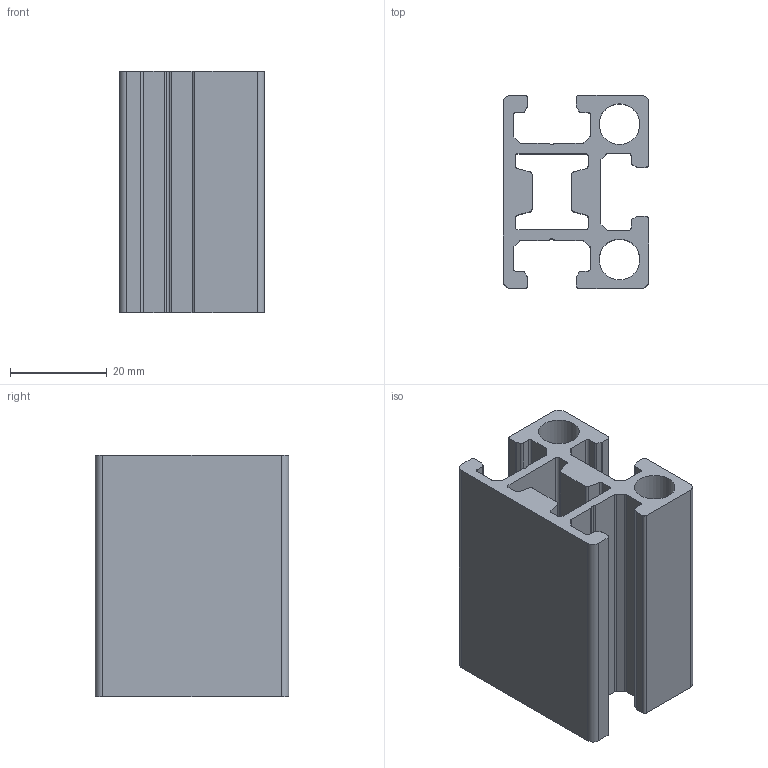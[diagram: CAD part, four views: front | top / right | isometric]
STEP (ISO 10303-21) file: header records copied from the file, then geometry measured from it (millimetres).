
FILE_DESCRIPTION(('STEP AP214'),'1');
FILE_NAME('F43KB-.stp','2017-07-21T04:11:59',(' '),(' '),'Spatial InterOp 3D',' ',' ');
FILE_SCHEMA(('automotive_design'));
Length unit declared in the file: millimetre
Products named in the file (1): F43KB-
Bounding box: 30 x 40 x 50 mm (x, y, z)
Volume: 24890.3 mm3; surface area: 18212.4 mm2
Topology: 1 solids, 1 shells, 118 faces, 348 edges, 232 vertices
Faces by surface type: cylinder 60, plane 58
Full cylindrical faces by diameter (mm): 8.4 x2
Entity records: 4934 total; most frequent: DIRECTION 704, CARTESIAN_POINT 697, ORIENTED_EDGE 692, EDGE_CURVE 346, AXIS2_PLACEMENT_3D 239, VERTEX_POINT 232, LINE 226, VECTOR 226
